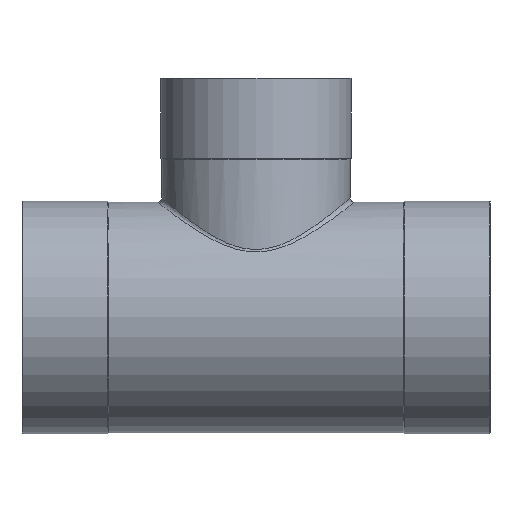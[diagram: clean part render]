
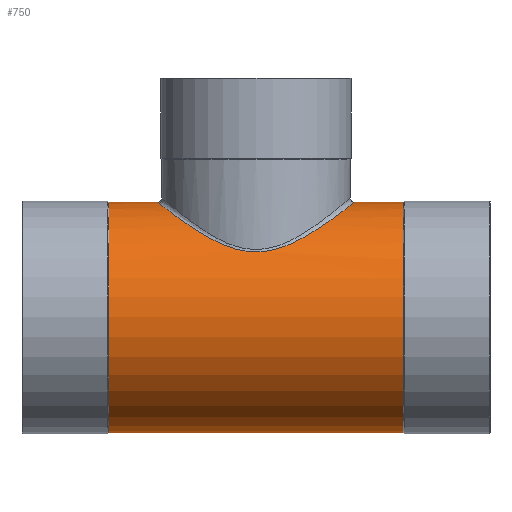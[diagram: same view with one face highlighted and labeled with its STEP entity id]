
A CAD part, top view. The second image highlights one B-rep face of the part: STEP entity #750.
In plain terms, the highlighted cylindrical face has radius 68.5 mm (diameter 137 mm), a partial arc.
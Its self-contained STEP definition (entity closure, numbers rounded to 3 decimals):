
#133=CARTESIAN_POINT('',(87.364,68.5,0.0));
#134=VERTEX_POINT('',#133);
#143=CARTESIAN_POINT('',(87.364,-68.5,0.));
#144=VERTEX_POINT('',#143);
#145=CARTESIAN_POINT('',(87.364,0.0,0.0));
#146=DIRECTION('',(1.0,0.0,0.0));
#147=DIRECTION('',(0.0,1.0,0.0));
#148=AXIS2_PLACEMENT_3D('',#145,#146,#147);
#149=CIRCLE('',#148,68.5);
#150=EDGE_CURVE('',#134,#144,#149,.T.);
#177=CARTESIAN_POINT('',(-87.364,68.5,0.0));
#178=VERTEX_POINT('',#177);
#194=CARTESIAN_POINT('',(-87.364,-68.5,0.));
#195=VERTEX_POINT('',#194);
#202=CARTESIAN_POINT('',(-87.364,0.0,0.0));
#203=DIRECTION('',(1.0,0.0,0.0));
#204=DIRECTION('',(0.0,1.0,0.0));
#205=AXIS2_PLACEMENT_3D('',#202,#203,#204);
#206=CIRCLE('',#205,68.5);
#207=EDGE_CURVE('',#178,#195,#206,.T.);
#698=CARTESIAN_POINT('',(43.682,0.0,0.0));
#699=DIRECTION('',(1.0,0.0,0.0));
#700=DIRECTION('',(0.0,1.0,0.0));
#701=AXIS2_PLACEMENT_3D('',#698,#699,#700);
#702=CYLINDRICAL_SURFACE('',#701,68.5);
#703=CARTESIAN_POINT('',(-58.5,68.5,0.));
#704=VERTEX_POINT('',#703);
#705=CARTESIAN_POINT('',(-87.364,68.5,0.0));
#706=DIRECTION('',(1.0,0.0,0.0));
#707=VECTOR('',#706,28.864);
#708=LINE('',#705,#707);
#709=EDGE_CURVE('',#178,#704,#708,.T.);
#710=ORIENTED_EDGE('',*,*,#709,.F.);
#711=ORIENTED_EDGE('',*,*,#207,.T.);
#712=CARTESIAN_POINT('',(87.364,-68.5,0.));
#713=DIRECTION('',(-1.0,0.0,0.0));
#714=VECTOR('',#713,174.729);
#715=LINE('',#712,#714);
#716=EDGE_CURVE('',#144,#195,#715,.T.);
#717=ORIENTED_EDGE('',*,*,#716,.F.);
#718=ORIENTED_EDGE('',*,*,#150,.F.);
#719=CARTESIAN_POINT('',(58.5,68.5,0.));
#720=VERTEX_POINT('',#719);
#721=CARTESIAN_POINT('',(58.5,68.5,0.));
#722=DIRECTION('',(1.0,0.0,0.0));
#723=VECTOR('',#722,28.864);
#724=LINE('',#721,#723);
#725=EDGE_CURVE('',#720,#134,#724,.T.);
#726=ORIENTED_EDGE('',*,*,#725,.F.);
#727=CARTESIAN_POINT('',(-58.5,68.5,0.));
#728=CARTESIAN_POINT('',(-58.5,68.5,10.606));
#729=CARTESIAN_POINT('',(-55.22,65.837,21.094));
#730=CARTESIAN_POINT('',(-44.865,58.062,37.374));
#731=CARTESIAN_POINT('',(-38.212,53.192,43.643));
#732=CARTESIAN_POINT('',(-24.125,45.005,51.897));
#733=CARTESIAN_POINT('',(-17.061,41.503,54.535));
#734=CARTESIAN_POINT('',(-1.663,38.204,56.891));
#735=CARTESIAN_POINT('',(6.43,38.75,56.556));
#736=CARTESIAN_POINT('',(20.902,43.241,53.201));
#737=CARTESIAN_POINT('',(27.334,46.735,50.342));
#738=CARTESIAN_POINT('',(40.593,54.852,41.593));
#739=CARTESIAN_POINT('',(46.977,59.611,34.918));
#740=CARTESIAN_POINT('',(54.96,65.684,20.541));
#741=CARTESIAN_POINT('',(57.289,67.539,13.576));
#742=CARTESIAN_POINT('',(58.378,68.403,4.204));
#743=CARTESIAN_POINT('',(58.5,68.5,2.1));
#744=CARTESIAN_POINT('',(58.5,68.5,0.));
#745=B_SPLINE_CURVE_WITH_KNOTS('',3,(#727,#728,#729,#730,#731,#732,#733,#734,#735,#736,#737,#738,#739,#740,#741,#742,#743,#744),.UNSPECIFIED.,.F.,.U.,(4,2,2,2,2,2,2,2,4),(9.091,12.169,15.038,17.32,19.487,21.654,24.537,26.668,27.276),.UNSPECIFIED.);
#746=EDGE_CURVE('',#704,#720,#745,.T.);
#747=ORIENTED_EDGE('',*,*,#746,.F.);
#748=EDGE_LOOP('',(#710,#711,#717,#718,#726,#747));
#749=FACE_OUTER_BOUND('',#748,.T.);
#750=ADVANCED_FACE('',(#749),#702,.T.);
